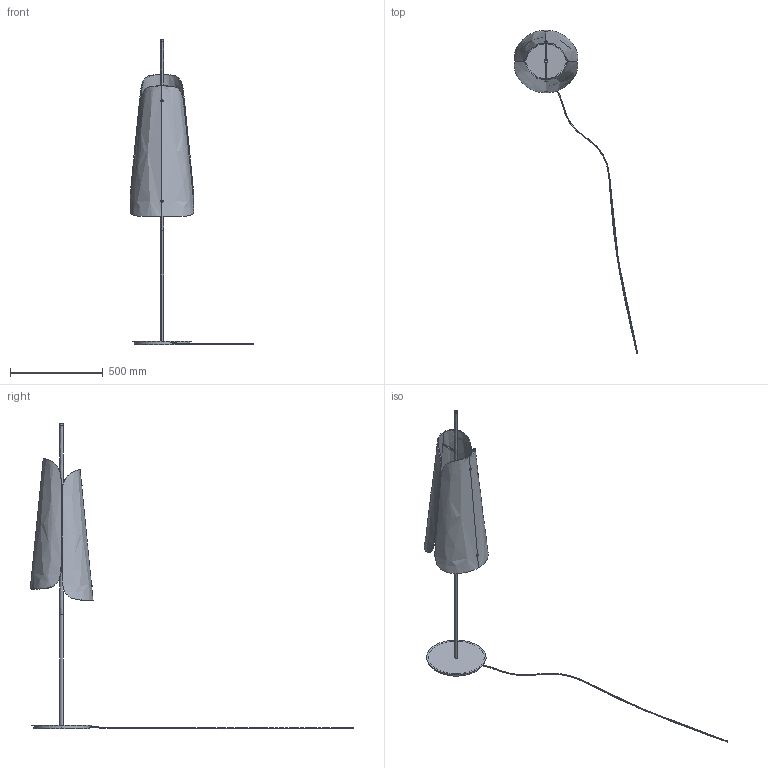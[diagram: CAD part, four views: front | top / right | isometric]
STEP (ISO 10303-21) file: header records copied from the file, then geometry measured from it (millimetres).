
FILE_DESCRIPTION(/* description */ (''),/* implementation_level */ '2;1');
FILE_NAME(/* name */ 'Pulpo Bent Two',/* time_stamp */ '2024-03-05T14:52:23+01:00',/* author */ (''),/* organization */ (''),/* preprocessor_version */ 'ST-DEVELOPER v16.5',/* originating_system */ '',/* authorisation */ '');
FILE_SCHEMA (('AUTOMOTIVE_DESIGN'));
Length unit declared in the file: millimetre
Products named in the file (1): Document
Bounding box: 664.25 x 1739.6 x 1640 mm (x, y, z)
Volume: 4250807 mm3; surface area: 1708450.1 mm2
Topology: 21 solids, 22 shells, 246 faces, 539 edges, 325 vertices
Faces by surface type: bspline 179, plane 67
Entity records: 23425 total; most frequent: CARTESIAN_POINT 20008, ORIENTED_EDGE 1074, EDGE_CURVE 539, VERTEX_POINT 325, EDGE_LOOP 262, B_SPLINE_CURVE_WITH_KNOTS 258, ADVANCED_FACE 246, FACE_OUTER_BOUND 246
